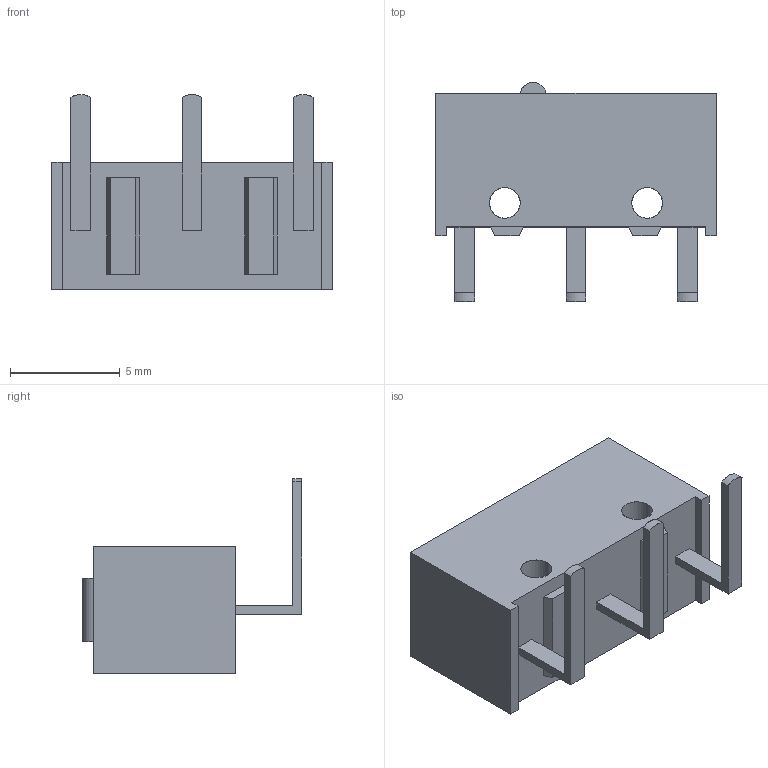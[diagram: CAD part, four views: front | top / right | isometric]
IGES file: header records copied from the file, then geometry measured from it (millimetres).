
Start section: OSMC1.0    IGES FILE using analytic representation for surfaces
Global section: file name: D:\OMRON\D2FS_F_N_A1.igs; native system: SolidWorks 2001Plus by SolidWorks Corporation; preprocessor: Version 5.3; author: yamanouchi; date: 131018.130848; units: millimetre
Bounding box: 12.8 x 10 x 8.9 mm (x, y, z)
Surface area: 541.8 mm2 (no closed solid volume)
Topology: 0 solids, 0 shells, 56 faces, 364 edges, 364 vertices
Faces by surface type: bspline 48, revolution 8
